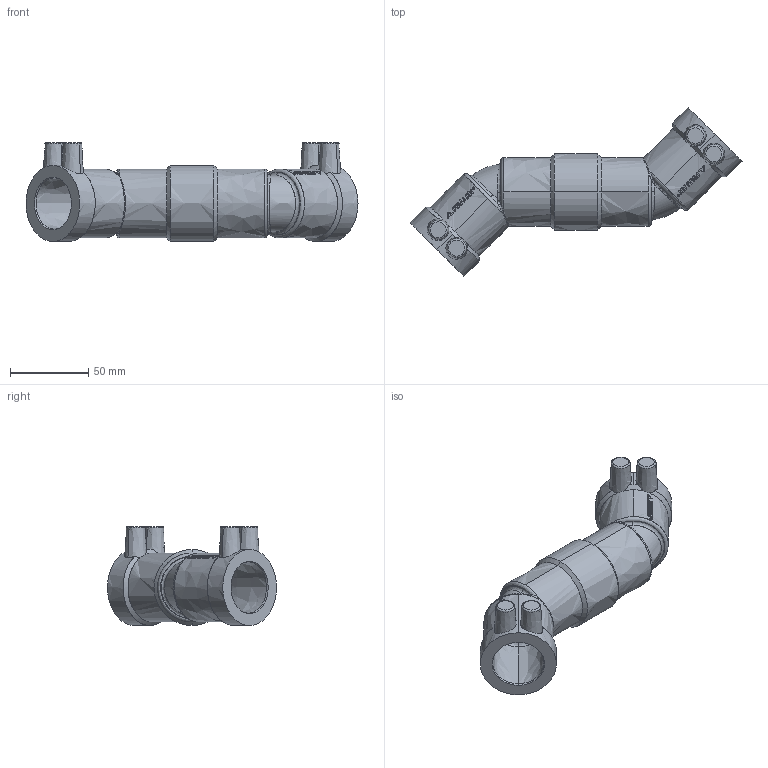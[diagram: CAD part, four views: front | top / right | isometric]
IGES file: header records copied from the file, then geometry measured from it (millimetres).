
Start section:  PTC IGES file: wet_d032_01.igs
Global section: file name: wet_d032_01.igs; native system: Pro/ENGINEER by Parametric Technology Corporation; preprocessor: 2011490; author: mtunjic; organization: Unknown; date: 20130812.103114; units: millimetre
Bounding box: 211.83 x 107.83 x 63.15 mm (x, y, z)
Surface area: 71930.9 mm2 (no closed solid volume)
Topology: 0 solids, 0 shells, 406 faces, 2036 edges, 2036 vertices
Faces by surface type: bspline 406
